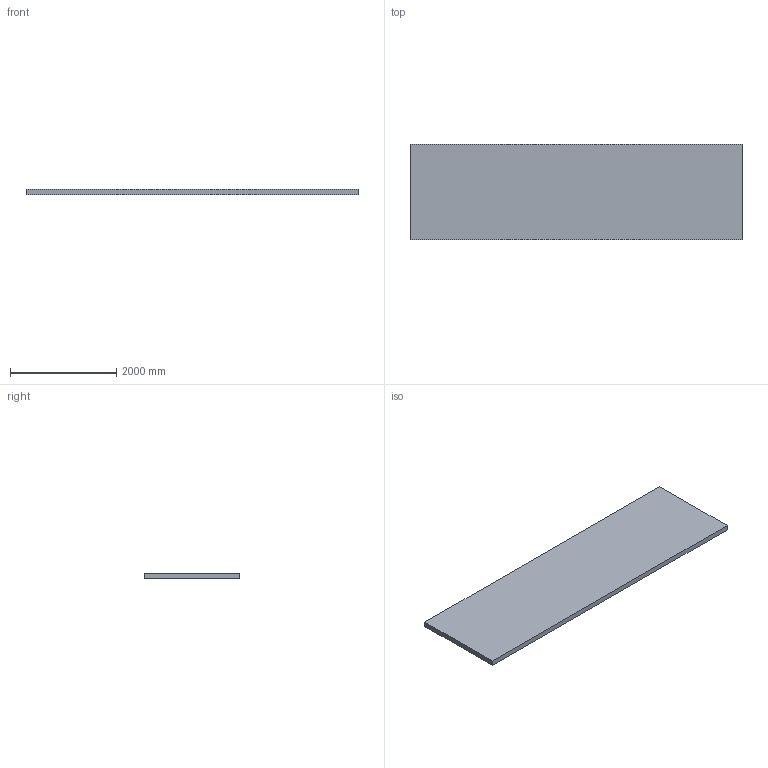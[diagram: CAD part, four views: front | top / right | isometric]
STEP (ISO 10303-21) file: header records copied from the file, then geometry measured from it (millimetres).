
FILE_DESCRIPTION (( 'STEP AP203' ), '1' );
FILE_NAME ('Mur gauche.STEP', '2025-09-18T11:57:36', ( '' ), ( '' ), 'SwSTEP 2.0', 'SolidWorks 2019', '' );
FILE_SCHEMA (( 'CONFIG_CONTROL_DESIGN' ));
Length unit declared in the file: millimetre
Products named in the file (1): Mur gauche
Bounding box: 6260 x 1800 x 100 mm (x, y, z)
Volume: 1126800000 mm3; surface area: 24148000 mm2
Topology: 1 solids, 1 shells, 6 faces, 12 edges, 8 vertices
Faces by surface type: plane 6
Entity records: 233 total; most frequent: CARTESIAN_POINT 27, DIRECTION 26, ORIENTED_EDGE 24, LINE 12, VECTOR 12, EDGE_CURVE 12, VERTEX_POINT 8, PERSON_AND_ORGANIZATION 8
